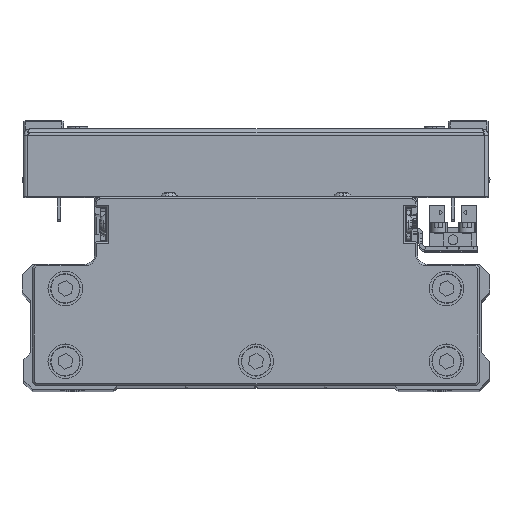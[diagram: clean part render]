
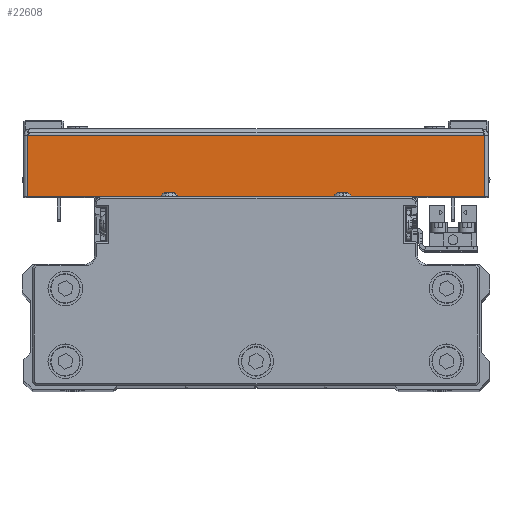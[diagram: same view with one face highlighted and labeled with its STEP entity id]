
A CAD part, top view. The second image highlights one B-rep face of the part: STEP entity #22608.
In plain terms, the highlighted planar face has unit normal (0, 0, 1) as drawn and (1, 0, 0) by its records, which use the part's own axes.
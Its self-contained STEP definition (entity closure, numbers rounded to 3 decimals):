
#965 = DIRECTION ( 'NONE',  ( 0., -1., 0. ) ) ;
#2610 = LINE ( 'NONE', #16152, #20811 ) ;
#3935 = AXIS2_PLACEMENT_3D ( 'NONE', #17859, #31370, #965 ) ;
#4319 = PLANE ( 'NONE',  #3935 ) ;
#4998 = LINE ( 'NONE', #18536, #31982 ) ;
#8795 = EDGE_CURVE ( 'NONE', #18364, #34232, #40133, .T. ) ;
#9771 = CARTESIAN_POINT ( 'NONE',  ( 100., 0., -65.929 ) ) ;
#10688 = DIRECTION ( 'NONE',  ( 0., 0., 1. ) ) ;
#11649 = CARTESIAN_POINT ( 'NONE',  ( 100., 18.5, 65.929 ) ) ;
#12281 = EDGE_CURVE ( 'NONE', #18364, #16093, #4998, .T. ) ;
#12329 = CARTESIAN_POINT ( 'NONE',  ( 100., 1., -65.929 ) ) ;
#16093 = VERTEX_POINT ( 'NONE', #29542 ) ;
#16152 = CARTESIAN_POINT ( 'NONE',  ( 100., 0., 65.929 ) ) ;
#16217 = CARTESIAN_POINT ( 'NONE',  ( 100., 18.5, -65.929 ) ) ;
#17859 = CARTESIAN_POINT ( 'NONE',  ( 100., 0., 0. ) ) ;
#18364 = VERTEX_POINT ( 'NONE', #12329 ) ;
#18536 = CARTESIAN_POINT ( 'NONE',  ( 100., 1., 67. ) ) ;
#20674 = EDGE_CURVE ( 'NONE', #16093, #34969, #2610, .T. ) ;
#20811 = VECTOR ( 'NONE', #29674, 1000. ) ;
#22599 = ORIENTED_EDGE ( 'NONE', *, *, #8795, .T. ) ;
#22608 = ADVANCED_FACE ( 'NONE', ( #34702 ), #4319, .F. ) ;
#23284 = DIRECTION ( 'NONE',  ( 0., 1., 0. ) ) ;
#27522 = LINE ( 'NONE', #41070, #28745 ) ;
#28745 = VECTOR ( 'NONE', #10688, 1000. ) ;
#28813 = ORIENTED_EDGE ( 'NONE', *, *, #12281, .F. ) ;
#29070 = ORIENTED_EDGE ( 'NONE', *, *, #20674, .F. ) ;
#29542 = CARTESIAN_POINT ( 'NONE',  ( 100., 1., 65.929 ) ) ;
#29674 = DIRECTION ( 'NONE',  ( 0., 1., 0. ) ) ;
#29707 = EDGE_CURVE ( 'NONE', #34232, #34969, #27522, .T. ) ;
#30600 = EDGE_LOOP ( 'NONE', ( #28813, #22599, #31838, #29070 ) ) ;
#31370 = DIRECTION ( 'NONE',  ( -1., 0., 0. ) ) ;
#31838 = ORIENTED_EDGE ( 'NONE', *, *, #29707, .T. ) ;
#31982 = VECTOR ( 'NONE', #32041, 1000. ) ;
#32041 = DIRECTION ( 'NONE',  ( 0., 0., 1. ) ) ;
#34232 = VERTEX_POINT ( 'NONE', #16217 ) ;
#34702 = FACE_OUTER_BOUND ( 'NONE', #30600, .T. ) ;
#34969 = VERTEX_POINT ( 'NONE', #11649 ) ;
#40133 = LINE ( 'NONE', #9771, #41055 ) ;
#41055 = VECTOR ( 'NONE', #23284, 1000. ) ;
#41070 = CARTESIAN_POINT ( 'NONE',  ( 100., 18.5, 0. ) ) ;
